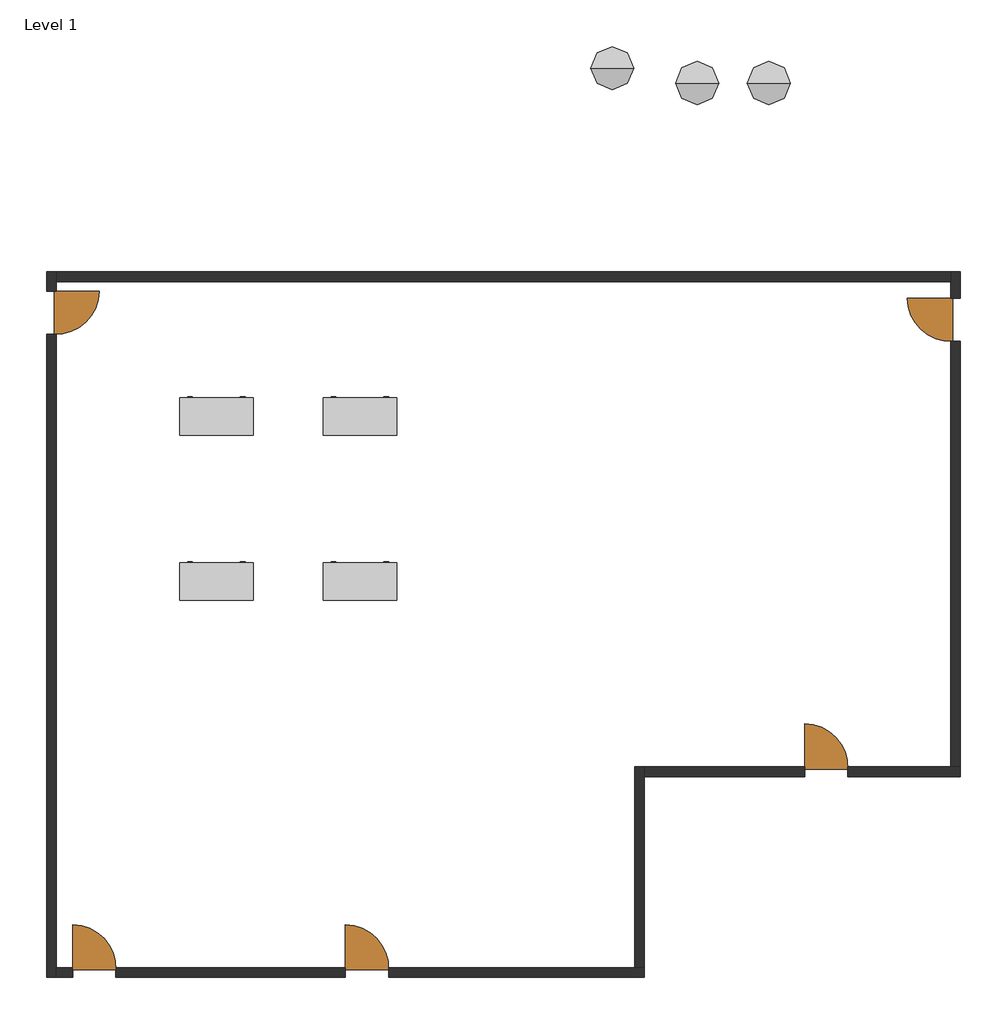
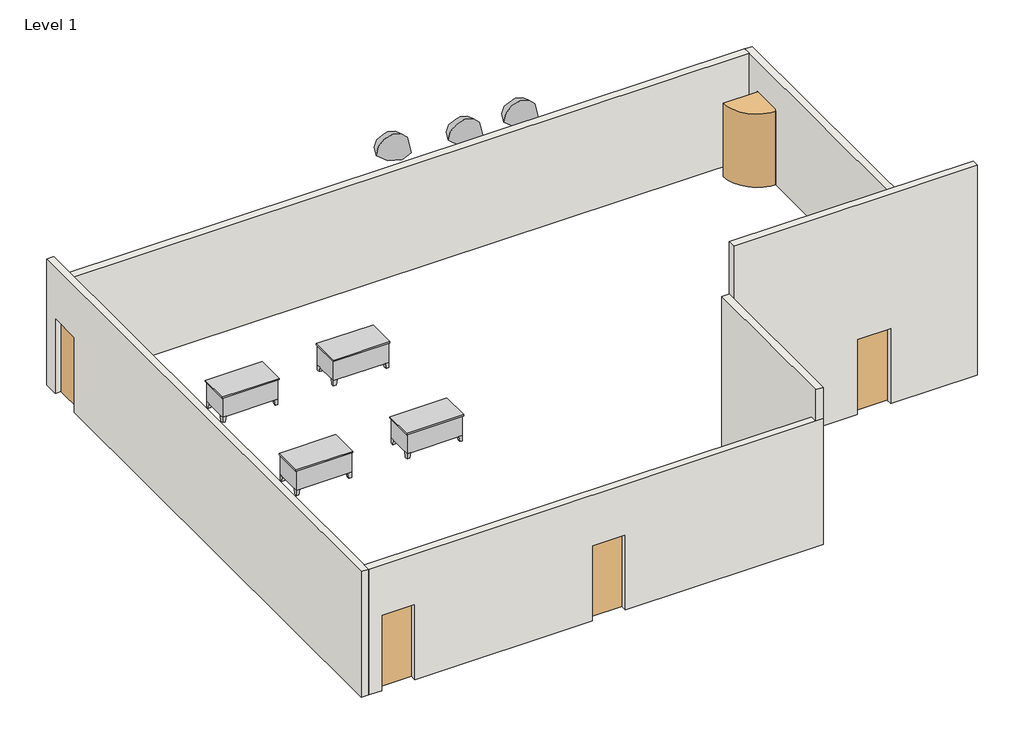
# One storey: 10 doors, 6 walls, 4 furniture elements, 3 geographic elements.
"""IFC4 building model written with IfcOpenShell, lengths in millimetres."""

from ifc_helpers import new_model, si_unit, origin, origin_with_axes, place, context, project, spatial, polyline, outline, extrude, faceted_brep, transform, mapped, element, save
from components import door_partition_swing_single_wh_interior_e724bc5e, door_partition_swing_single_wh_interior_d8258ed9, pnl_pf_pnl_pf_4_695aecbf, pnl_pf_pnl_pf_4_30113026, furniture_072f6425, geographic_element_e8c3bac9

model = new_model("IFC4")

# Units and contexts
model_context = context("Model", 3, world=origin())
ifc_project = project(units=[si_unit("LENGTHUNIT", "METRE", prefix="MILLI")], contexts=[model_context])

# Site, building, storey
site = spatial("IfcSite", under=ifc_project)
building = spatial("IfcBuilding", under=site)
storey = spatial("IfcBuildingStorey", under=building, Name="Level 1", Elevation=0.0)

# Doors
placement = place(None, origin())
door_partition_swing_single_wh_interior_shape = door_partition_swing_single_wh_interior_e724bc5e(model_context)
element("IfcDoor", 1, ObjectType="Door_Partition_Swing_Single_WH : Interior", at=placement, inside=storey, context=model_context, shape_type="MappedRepresentation", body=[
    mapped(door_partition_swing_single_wh_interior_shape, transform((-7092.2672395, -6001.280369, 0.0), x_axis=(1.0, 0.0, 0.0), y_axis=(0.0, 1.0, 0.0), z_axis=(0.0, 0.0, 1.0))),
])
element("IfcDoor", 2, ObjectType="Door_Partition_Swing_Single_WH : Interior", at=placement, inside=storey, context=model_context, shape_type="MappedRepresentation", body=[
    mapped(door_partition_swing_single_wh_interior_shape, transform((2661.3327605, -1734.080369, 0.0), x_axis=(1.0, 0.0, 0.0), y_axis=(0.0, 1.0, 0.0), z_axis=(0.0, 0.0, 1.0))),
])
element("IfcDoor", 3, ObjectType="Door_Partition_Swing_Single_WH : Interior", at=placement, inside=storey, context=model_context, shape_type="MappedRepresentation", body=[
    mapped(door_partition_swing_single_wh_interior_shape, transform((-13779.5019194, 8037.8849511, 0.0), x_axis=(0.0, -1.0, 0.0), y_axis=(1.0, 0.0, 0.0), z_axis=(0.0, 0.0, 1.0))),
])
element("IfcDoor", 4, ObjectType="Door_Partition_Swing_Single_WH : Interior", at=placement, inside=storey, context=model_context, shape_type="MappedRepresentation", body=[
    mapped(door_partition_swing_single_wh_interior_shape, transform((-12883.4672395, -6001.280369, 0.0), x_axis=(1.0, 0.0, 0.0), y_axis=(0.0, 1.0, 0.0), z_axis=(0.0, 0.0, 1.0))),
])
door_partition_swing_single_wh_interior_2_shape = door_partition_swing_single_wh_interior_d8258ed9(model_context)
element("IfcDoor", 5, ObjectType="Door_Partition_Swing_Single_WH : Interior", at=placement, inside=storey, context=model_context, shape_type="MappedRepresentation", body=[
    mapped(door_partition_swing_single_wh_interior_2_shape, transform((5422.8980806, 7885.4849511, 0.0), x_axis=(0.0, -1.0, 0.0), y_axis=(1.0, 0.0, 0.0), z_axis=(0.0, 0.0, 1.0))),
])
pnl_pf_pnl_pf_4_shape = pnl_pf_pnl_pf_4_695aecbf(model_context)
element("IfcDoor", 6, ObjectType="Pnl_PF : Pnl_PF 4", at=placement, inside=storey, context=model_context, shape_type="MappedRepresentation", body=[
    mapped(pnl_pf_pnl_pf_4_shape, transform((-7531.1019194, -5899.680369, 0.0), x_axis=(1.0, 0.0, 0.0), y_axis=(0.0, 1.0, 0.0), z_axis=(0.0, 0.0, 1.0))),
])
element("IfcDoor", 7, ObjectType="Pnl_PF : Pnl_PF 4", at=placement, inside=storey, context=model_context, shape_type="MappedRepresentation", body=[
    mapped(pnl_pf_pnl_pf_4_shape, transform((-13322.3019194, -5899.680369, 0.0), x_axis=(1.0, 0.0, 0.0), y_axis=(0.0, 1.0, 0.0), z_axis=(0.0, 0.0, 1.0))),
])
element("IfcDoor", 8, ObjectType="Pnl_PF : Pnl_PF 4", at=placement, inside=storey, context=model_context, shape_type="MappedRepresentation", body=[
    mapped(pnl_pf_pnl_pf_4_shape, transform((-13677.9019194, 8476.719631, 0.0), x_axis=(0.0, -1.0, 0.0), y_axis=(1.0, 0.0, 0.0), z_axis=(0.0, 0.0, 1.0))),
])
element("IfcDoor", 9, ObjectType="Pnl_PF : Pnl_PF 4", at=placement, inside=storey, context=model_context, shape_type="MappedRepresentation", body=[
    mapped(pnl_pf_pnl_pf_4_shape, transform((2222.4980806, -1632.480369, 0.0), x_axis=(1.0, 0.0, 0.0), y_axis=(0.0, 1.0, 0.0), z_axis=(0.0, 0.0, 1.0))),
])
pnl_pf_pnl_pf_4_2_shape = pnl_pf_pnl_pf_4_30113026(model_context)
element("IfcDoor", 10, ObjectType="Pnl_PF : Pnl_PF 4", at=placement, inside=storey, context=model_context, shape_type="MappedRepresentation", body=[
    mapped(pnl_pf_pnl_pf_4_2_shape, transform((5321.2980806, 8324.319631, 0.0), x_axis=(0.0, -1.0, 0.0), y_axis=(1.0, 0.0, 0.0), z_axis=(0.0, 0.0, 1.0))),
])

# Furniture
furniture_shape = furniture_072f6425(model_context)
element("IfcFurniture", 11, ObjectType="Desk : 60\" x 30\"", at=placement, inside=storey, context=model_context, shape_type="MappedRepresentation", body=[
    mapped(furniture_shape, transform((-11036.3019194, 5428.719631, 0.0), x_axis=(1.0, 0.0, 0.0), y_axis=(0.0, 1.0, 0.0), z_axis=(0.0, 0.0, 1.0))),
])
element("IfcFurniture", 12, ObjectType="Desk : 60\" x 30\"", at=placement, inside=storey, context=model_context, shape_type="MappedRepresentation", body=[
    mapped(furniture_shape, transform((-11036.3019194, 1923.519631, 0.0), x_axis=(1.0, 0.0, 0.0), y_axis=(0.0, 1.0, 0.0), z_axis=(0.0, 0.0, 1.0))),
])
element("IfcFurniture", 13, ObjectType="Desk : 60\" x 30\"", at=placement, inside=storey, context=model_context, shape_type="MappedRepresentation", body=[
    mapped(furniture_shape, transform((-7988.3019194, 5428.719631, 0.0), x_axis=(1.0, 0.0, 0.0), y_axis=(0.0, 1.0, 0.0), z_axis=(0.0, 0.0, 1.0))),
])
element("IfcFurniture", 14, ObjectType="Desk : 60\" x 30\"", at=placement, inside=storey, context=model_context, shape_type="MappedRepresentation", body=[
    mapped(furniture_shape, transform((-7988.3019194, 1923.519631, 0.0), x_axis=(1.0, 0.0, 0.0), y_axis=(0.0, 1.0, 0.0), z_axis=(0.0, 0.0, 1.0))),
])

# Geographic elements
geographic_element_shape = geographic_element_e8c3bac9(model_context)
element("IfcGeographicElement", 15, ObjectType="Shubbery : Shubbery", at=placement, inside=storey, context=model_context, shape_type="MappedRepresentation", body=[
    mapped(geographic_element_shape, transform((1460.4980806, 12896.319631, 0.0), x_axis=(1.0, 0.0, 0.0), y_axis=(0.0, 1.0, 0.0), z_axis=(0.0, 0.0, 1.0))),
])
element("IfcGeographicElement", 16, ObjectType="Shubbery : Shubbery", at=placement, inside=storey, context=model_context, shape_type="MappedRepresentation", body=[
    mapped(geographic_element_shape, transform((-63.5019194, 12896.319631, 0.0), x_axis=(1.0, 0.0, 0.0), y_axis=(0.0, 1.0, 0.0), z_axis=(0.0, 0.0, 1.0))),
])
element("IfcGeographicElement", 17, ObjectType="Shubbery : Shubbery", at=placement, inside=storey, context=model_context, shape_type="MappedRepresentation", body=[
    mapped(geographic_element_shape, transform((-1864.5183381, 13213.8874183, 0.0), x_axis=(1.0, 0.0, 0.0), y_axis=(0.0, 1.0, 0.0), z_axis=(0.0, 0.0, 1.0))),
])

# Walls
element("IfcWall", 18, ObjectType="Generic - 8\"", at=placement, inside=storey, context=model_context, shape_type="Brep", body=[
    faceted_brep([(-13677.9019194, -6102.880369, 0.0), (-13677.9019194, -5899.680369, 0.0), (-13677.9019194, 7562.319631, 0.0), (-13677.9019194, 7562.319631, 2184.4), (-13677.9019194, 8476.719631, 2184.4), (-13677.9019194, 8476.719631, 0.0), (-13677.9019194, 8679.919631, 0.0), (-13677.9019194, 8883.119631, 0.0), (-13677.9019194, 8883.119631, 3048.0), (-13677.9019194, 8883.119631, 3657.6), (-13677.9019194, -5899.680369, 3657.6), (-13677.9019194, -6102.880369, 3657.6), (-13881.1019194, 7562.319631, 2184.4), (-13881.1019194, 7562.319631, 0.0), (-13881.1019194, -6102.880369, 0.0), (-13881.1019194, -6102.880369, 3657.6), (-13881.1019194, 8883.119631, 3657.6), (-13881.1019194, 8883.119631, 0.0), (-13881.1019194, 8476.719631, 0.0), (-13881.1019194, 8476.719631, 2184.4)], [[[0, 1, 2, 3, 4, 5, 6, 7, 8, 9, 10, 11]], [[12, 13, 14, 15, 16, 17, 18, 19]], [[18, 17, 7, 6, 5]], [[14, 13, 2, 1, 0]], [[11, 10, 9, 16, 15]], [[0, 11, 15, 14]], [[7, 17, 16, 9, 8]], [[5, 4, 19, 18]], [[3, 2, 13, 12]], [[4, 3, 12, 19]]]),
])
element("IfcWall", 19, ObjectType="Generic - 8\"", at=placement, inside=storey, context=model_context, shape_type="SweptSolid", body=[
    extrude(outline(polyline([(5321.2980806, 8679.919631), (-13677.9019194, 8679.919631), (-13677.9019194, 8883.119631), (5321.2980806, 8883.119631), (5321.2980806, 8679.919631)])), origin_with_axes(), (0.0, 0.0, 1.0), 3048.0),
])
element("IfcWall", 20, ObjectType="Generic - 8\"", at=placement, inside=storey, context=model_context, shape_type="Brep", body=[
    faceted_brep([(-12407.9019194, -6102.880369, 2184.4), (-12407.9019194, -6102.880369, 0.0), (-7531.1019194, -6102.880369, 0.0), (-7531.1019194, -6102.880369, 2184.4), (-6616.7019194, -6102.880369, 2184.4), (-6616.7019194, -6102.880369, 0.0), (-1181.1019194, -6102.880369, 0.0), (-1181.1019194, -6102.880369, 3657.6), (-1384.3019194, -6102.880369, 3657.6), (-13677.9019194, -6102.880369, 3657.6), (-13677.9019194, -6102.880369, 0.0), (-13322.3019194, -6102.880369, 0.0), (-13322.3019194, -6102.880369, 2184.4), (-7531.1019194, -5899.680369, 0.0), (-12407.9019194, -5899.680369, 0.0), (-12407.9019194, -5899.680369, 2184.4), (-13322.3019194, -5899.680369, 2184.4), (-13322.3019194, -5899.680369, 0.0), (-13677.9019194, -5899.680369, 0.0), (-13677.9019194, -5899.680369, 3657.6), (-1384.3019194, -5899.680369, 3657.6), (-1181.1019194, -5899.680369, 3657.6), (-1181.1019194, -5899.680369, 0.0), (-1384.3019194, -5899.680369, 0.0), (-6616.7019194, -5899.680369, 0.0), (-6616.7019194, -5899.680369, 2184.4), (-7531.1019194, -5899.680369, 2184.4)], [[[0, 1, 2, 3, 4, 5, 6, 7, 8, 9, 10, 11, 12]], [[13, 14, 15, 16, 17, 18, 19, 20, 21, 22, 23, 24, 25, 26]], [[6, 5, 24, 23, 22]], [[11, 10, 18, 17]], [[2, 1, 14, 13]], [[9, 8, 7, 21, 20, 19]], [[10, 9, 19, 18]], [[7, 6, 22, 21]], [[13, 26, 3, 2]], [[25, 24, 5, 4]], [[26, 25, 4, 3]], [[17, 16, 12, 11]], [[15, 14, 1, 0]], [[16, 15, 0, 12]]]),
])
element("IfcWall", 21, ObjectType="Generic - 8\"", at=placement, inside=storey, context=model_context, shape_type="Brep", body=[
    faceted_brep([(-1181.1019194, -5899.680369, 0.0), (-1181.1019194, -1835.680369, 0.0), (-1181.1019194, -1632.480369, 0.0), (-1181.1019194, -1632.480369, 4572.0), (-1181.1019194, -6102.880369, 4572.0), (-1181.1019194, -6102.880369, 3657.6), (-1181.1019194, -5899.680369, 3657.6), (-1384.3019194, -5899.680369, 0.0), (-1384.3019194, -5899.680369, 3657.6), (-1384.3019194, -6102.880369, 3657.6), (-1384.3019194, -6102.880369, 4572.0), (-1384.3019194, -1632.480369, 4572.0), (-1384.3019194, -1632.480369, 0.0)], [[[0, 1, 2, 3, 4, 5, 6]], [[7, 8, 9, 10, 11, 12]], [[2, 1, 0, 7, 12]], [[4, 3, 11, 10]], [[3, 2, 12, 11]], [[5, 9, 8, 6]], [[0, 6, 8, 7]], [[5, 4, 10, 9]]]),
])
element("IfcWall", 22, ObjectType="Generic - 8\"", at=placement, inside=storey, context=model_context, shape_type="Brep", body=[
    faceted_brep([(3136.8980806, -1835.680369, 2184.4), (3136.8980806, -1835.680369, 0.0), (5524.4980806, -1835.680369, 0.0), (5524.4980806, -1835.680369, 6096.0), (-1181.1019194, -1835.680369, 6096.0), (-1181.1019194, -1835.680369, 0.0), (2222.4980806, -1835.680369, 0.0), (2222.4980806, -1835.680369, 2184.4), (5524.4980806, -1632.480369, 0.0), (5321.2980806, -1632.480369, 0.0), (3136.8980806, -1632.480369, 0.0), (3136.8980806, -1632.480369, 2184.4), (2222.4980806, -1632.480369, 2184.4), (2222.4980806, -1632.480369, 0.0), (-1181.1019194, -1632.480369, 0.0), (-1181.1019194, -1632.480369, 4572.0), (-1181.1019194, -1632.480369, 6096.0), (5524.4980806, -1632.480369, 6096.0), (5524.4980806, -1632.480369, 3048.0)], [[[0, 1, 2, 3, 4, 5, 6, 7]], [[8, 9, 10, 11, 12, 13, 14, 15, 16, 17, 18]], [[6, 5, 14, 13]], [[2, 1, 10, 9, 8]], [[4, 3, 17, 16]], [[5, 4, 16, 15, 14]], [[3, 2, 8, 18, 17]], [[13, 12, 7, 6]], [[11, 10, 1, 0]], [[12, 11, 0, 7]]]),
])
element("IfcWall", 23, ObjectType="Generic - 8\"", at=placement, inside=storey, context=model_context, shape_type="Brep", body=[
    faceted_brep([(5524.4980806, -1632.480369, 0.0), (5524.4980806, 7409.919631, 0.0), (5524.4980806, 7409.919631, 2184.4), (5524.4980806, 8324.319631, 2184.4), (5524.4980806, 8324.319631, 0.0), (5524.4980806, 8883.119631, 0.0), (5524.4980806, 8883.119631, 3048.0), (5524.4980806, -1632.480369, 3048.0), (5321.2980806, 7409.919631, 2184.4), (5321.2980806, 7409.919631, 0.0), (5321.2980806, -1632.480369, 0.0), (5321.2980806, -1632.480369, 3048.0), (5321.2980806, 8679.919631, 3048.0), (5321.2980806, 8883.119631, 3048.0), (5321.2980806, 8883.119631, 0.0), (5321.2980806, 8679.919631, 0.0), (5321.2980806, 8324.319631, 0.0), (5321.2980806, 8324.319631, 2184.4)], [[[0, 1, 2, 3, 4, 5, 6, 7]], [[8, 9, 10, 11, 12, 13, 14, 15, 16, 17]], [[10, 9, 1, 0]], [[16, 15, 14, 5, 4]], [[7, 6, 13, 12, 11]], [[0, 7, 11, 10]], [[6, 5, 14, 13]], [[4, 3, 17, 16]], [[2, 1, 9, 8]], [[3, 2, 8, 17]]]),
])

save(model, "model.ifc")
